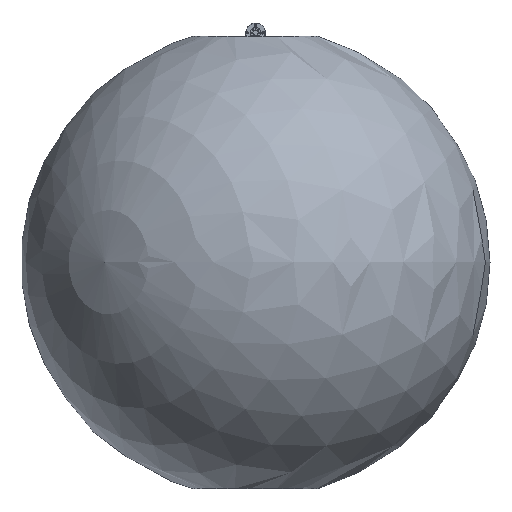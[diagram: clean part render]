
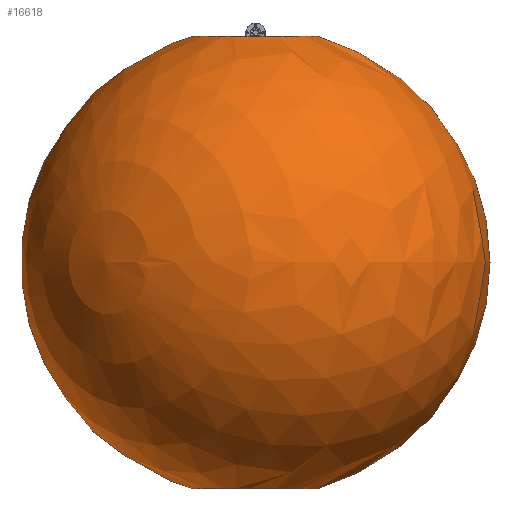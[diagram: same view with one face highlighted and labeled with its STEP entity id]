
A CAD part, top view. The second image highlights one B-rep face of the part: STEP entity #16618.
In plain terms, the highlighted spherical face has radius 1403 mm.
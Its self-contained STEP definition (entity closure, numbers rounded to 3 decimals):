
#2293 = DIRECTION ( 'NONE',  ( 0., -1., 0. ) ) ;
#2603 = DIRECTION ( 'NONE',  ( 0.174, 0., -0.985 ) ) ;
#3686 = ORIENTED_EDGE ( 'NONE', *, *, #10100, .T. ) ;
#5139 = CIRCLE ( 'NONE', #99534, 368. ) ;
#5350 = CIRCLE ( 'NONE', #75462, 1403. ) ;
#5741 = CIRCLE ( 'NONE', #84707, 368. ) ;
#8058 = VERTEX_POINT ( 'NONE', #9063 ) ;
#8815 = DIRECTION ( 'NONE',  ( -0.174, 0., 0.985 ) ) ;
#9063 = CARTESIAN_POINT ( 'NONE',  ( -368., 1353.878, 0. ) ) ;
#10100 = EDGE_CURVE ( 'NONE', #94404, #8058, #5741, .T. ) ;
#16618 = ADVANCED_FACE ( 'NONE', ( #114846 ), #105710, .T. ) ;
#17879 = ORIENTED_EDGE ( 'NONE', *, *, #76356, .F. ) ;
#31245 = CARTESIAN_POINT ( 'NONE',  ( 0., 1353.878, 0. ) ) ;
#34933 = VERTEX_POINT ( 'NONE', #121350 ) ;
#43319 = ORIENTED_EDGE ( 'NONE', *, *, #110059, .F. ) ;
#55852 = DIRECTION ( 'NONE',  ( 1., 0., 0. ) ) ;
#67911 = CARTESIAN_POINT ( 'NONE',  ( 0., 0., 0. ) ) ;
#70292 = DIRECTION ( 'NONE',  ( 1., 0., 0. ) ) ;
#75462 = AXIS2_PLACEMENT_3D ( 'NONE', #67911, #8815, #77675 ) ;
#76356 = EDGE_CURVE ( 'NONE', #34933, #104638, #5139, .T. ) ;
#77675 = DIRECTION ( 'NONE',  ( 0.985, 0., 0.174 ) ) ;
#78716 = DIRECTION ( 'NONE',  ( 0., 0., 1. ) ) ;
#79332 = AXIS2_PLACEMENT_3D ( 'NONE', #97882, #2603, #109352 ) ;
#80319 = EDGE_CURVE ( 'NONE', #8058, #104638, #115941, .T. ) ;
#81221 = CARTESIAN_POINT ( 'NONE',  ( -368., -1353.878, 0. ) ) ;
#84707 = AXIS2_PLACEMENT_3D ( 'NONE', #31245, #2293, #70292 ) ;
#94404 = VERTEX_POINT ( 'NONE', #94413 ) ;
#94413 = CARTESIAN_POINT ( 'NONE',  ( -362.409, 1353.878, -63.903 ) ) ;
#97882 = CARTESIAN_POINT ( 'NONE',  ( 0., 0., 0. ) ) ;
#98063 = AXIS2_PLACEMENT_3D ( 'NONE', #117427, #78716, #117851 ) ;
#99534 = AXIS2_PLACEMENT_3D ( 'NONE', #124264, #123846, #55852 ) ;
#101258 = EDGE_LOOP ( 'NONE', ( #17879, #43319, #3686, #110710 ) ) ;
#104638 = VERTEX_POINT ( 'NONE', #81221 ) ;
#105710 = SPHERICAL_SURFACE ( 'NONE', #79332, 1403. ) ;
#109352 = DIRECTION ( 'NONE',  ( -0.985, 0., -0.174 ) ) ;
#110059 = EDGE_CURVE ( 'NONE', #94404, #34933, #5350, .T. ) ;
#110710 = ORIENTED_EDGE ( 'NONE', *, *, #80319, .T. ) ;
#114846 = FACE_OUTER_BOUND ( 'NONE', #101258, .T. ) ;
#115941 = CIRCLE ( 'NONE', #98063, 1403. ) ;
#117427 = CARTESIAN_POINT ( 'NONE',  ( 0., 0., 0. ) ) ;
#117851 = DIRECTION ( 'NONE',  ( 1., 0., 0. ) ) ;
#121350 = CARTESIAN_POINT ( 'NONE',  ( -362.409, -1353.878, -63.903 ) ) ;
#123846 = DIRECTION ( 'NONE',  ( 0., -1., 0. ) ) ;
#124264 = CARTESIAN_POINT ( 'NONE',  ( 0., -1353.878, 0. ) ) ;
